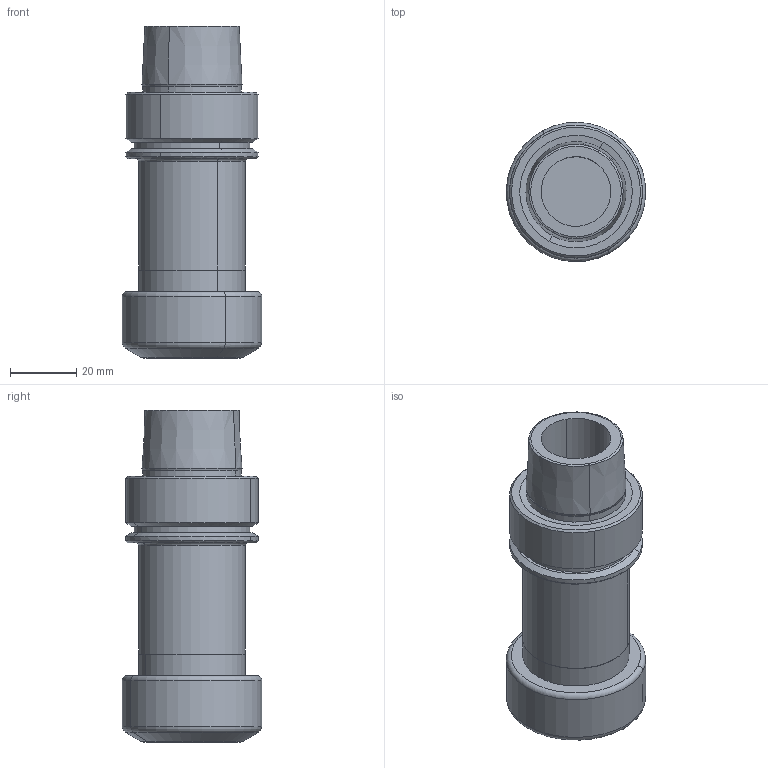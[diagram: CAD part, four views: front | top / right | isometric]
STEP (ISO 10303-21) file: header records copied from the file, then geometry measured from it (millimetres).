
FILE_DESCRIPTION(('CATIA V5 STEP','CAx-IF Rec.Pracs.--- Model Styling and Organization---1.2---2011-12-15'),'2;1');
FILE_NAME('\\nas01\drv1\utils\eitdev\rte\eit\transmagicconvert\db\out\635925004776806625\4503981-L-B.stp','2016-03-02T05:28:09+00:00',('none'),('none'),'CATIA Version 5 Release 21 SP 5 (IN-10)','CATIA V5 STEP AP214','none');
FILE_SCHEMA(('AUTOMOTIVE_DESIGN { 1 0 10303 214 1 1 1 1 }'));
Length unit declared in the file: millimetre
Products named in the file (1): HSK A 40 ER25X 80
Bounding box: 41.99 x 41.99 x 100 mm (x, y, z)
Volume: 70816.3 mm3; surface area: 19145.6 mm2
Topology: 1 solids, 1 shells, 67 faces, 150 edges, 91 vertices
Faces by surface type: cone 22, cylinder 22, torus 14, plane 9
Entity records: 1745 total; most frequent: CARTESIAN_POINT 373, ORIENTED_EDGE 296, DIRECTION 222, EDGE_CURVE 148, AXIS2_PLACEMENT_3D 139, CIRCLE 98, VERTEX_POINT 91, EDGE_LOOP 75
